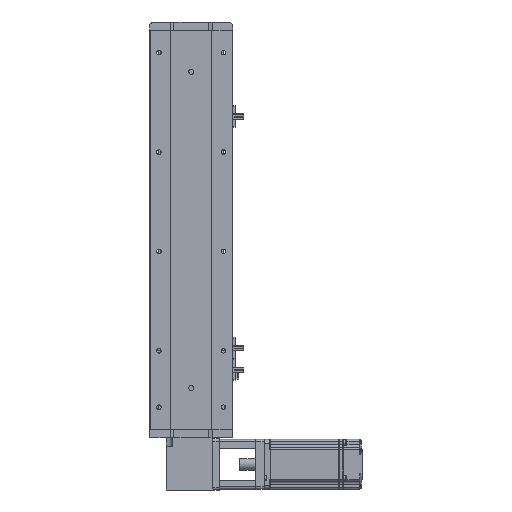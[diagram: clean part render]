
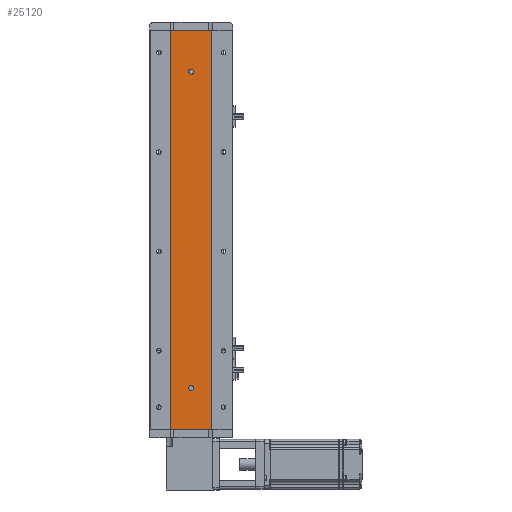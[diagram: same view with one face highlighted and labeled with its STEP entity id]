
A CAD part, left-side view. The second image highlights one B-rep face of the part: STEP entity #25120.
In plain terms, the highlighted planar face has unit normal (-1, 0, 0).
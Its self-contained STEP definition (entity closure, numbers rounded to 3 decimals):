
#1984 = ORIENTED_EDGE ( 'NONE', *, *, #18253, .F. ) ;
#3124 = VERTEX_POINT ( 'NONE', #35539 ) ;
#3237 = CARTESIAN_POINT ( 'NONE',  ( -18.926, 0., 435. ) ) ;
#3620 = EDGE_CURVE ( 'NONE', #47443, #49654, #4487, .T. ) ;
#4171 = DIRECTION ( 'NONE',  ( -1., 0., 0. ) ) ;
#4487 = CIRCLE ( 'NONE', #43708, 3. ) ;
#6660 = LINE ( 'NONE', #42491, #29786 ) ;
#6761 = LINE ( 'NONE', #23639, #31343 ) ;
#7508 = VERTEX_POINT ( 'NONE', #16027 ) ;
#7782 = DIRECTION ( 'NONE',  ( 0., -1., 0. ) ) ;
#8699 = VECTOR ( 'NONE', #7782, 1000. ) ;
#9200 = VERTEX_POINT ( 'NONE', #9737 ) ;
#9737 = CARTESIAN_POINT ( 'NONE',  ( -18.926, 0., 429. ) ) ;
#11445 = CARTESIAN_POINT ( 'NONE',  ( -18.926, -24.785, 0. ) ) ;
#11930 = EDGE_CURVE ( 'NONE', #3124, #7508, #6761, .T. ) ;
#12270 = FACE_BOUND ( 'NONE', #45527, .T. ) ;
#14691 = CARTESIAN_POINT ( 'NONE',  ( -18.926, 0., 47. ) ) ;
#14957 = ORIENTED_EDGE ( 'NONE', *, *, #3620, .F. ) ;
#16027 = CARTESIAN_POINT ( 'NONE',  ( -18.926, 24.785, 0. ) ) ;
#16106 = CARTESIAN_POINT ( 'NONE',  ( -18.926, 0., 432. ) ) ;
#18253 = EDGE_CURVE ( 'NONE', #9200, #56719, #19069, .T. ) ;
#19037 = EDGE_CURVE ( 'NONE', #24520, #56064, #6660, .T. ) ;
#19069 = CIRCLE ( 'NONE', #43409, 3. ) ;
#20307 = CARTESIAN_POINT ( 'NONE',  ( -18.926, 24.785, 482. ) ) ;
#20829 = DIRECTION ( 'NONE',  ( 0., 0., 1. ) ) ;
#21489 = AXIS2_PLACEMENT_3D ( 'NONE', #20307, #52555, #24873 ) ;
#23639 = CARTESIAN_POINT ( 'NONE',  ( -18.926, 24.785, 482. ) ) ;
#24520 = VERTEX_POINT ( 'NONE', #56483 ) ;
#24538 = FACE_OUTER_BOUND ( 'NONE', #33921, .T. ) ;
#24873 = DIRECTION ( 'NONE',  ( 0., 0., -1. ) ) ;
#25120 = ADVANCED_FACE ( 'NONE', ( #59941, #12270, #24538 ), #33827, .F. ) ;
#25391 = DIRECTION ( 'NONE',  ( -1., 0., 0. ) ) ;
#25505 = DIRECTION ( 'NONE',  ( -1., 0., 0. ) ) ;
#25967 = ORIENTED_EDGE ( 'NONE', *, *, #31943, .T. ) ;
#26625 = EDGE_CURVE ( 'NONE', #56719, #9200, #31101, .T. ) ;
#27304 = CARTESIAN_POINT ( 'NONE',  ( -18.926, 24.785, 0. ) ) ;
#28137 = AXIS2_PLACEMENT_3D ( 'NONE', #53031, #25391, #57694 ) ;
#29318 = ORIENTED_EDGE ( 'NONE', *, *, #41235, .F. ) ;
#29786 = VECTOR ( 'NONE', #33199, 1000. ) ;
#30156 = LINE ( 'NONE', #27304, #53258 ) ;
#30262 = EDGE_LOOP ( 'NONE', ( #29318, #14957 ) ) ;
#31101 = CIRCLE ( 'NONE', #35085, 3. ) ;
#31343 = VECTOR ( 'NONE', #46497, 1000. ) ;
#31858 = CARTESIAN_POINT ( 'NONE',  ( -18.926, 0., 432. ) ) ;
#31943 = EDGE_CURVE ( 'NONE', #7508, #56064, #30156, .T. ) ;
#33199 = DIRECTION ( 'NONE',  ( 0., 0., -1. ) ) ;
#33355 = ORIENTED_EDGE ( 'NONE', *, *, #26625, .F. ) ;
#33827 = PLANE ( 'NONE',  #21489 ) ;
#33921 = EDGE_LOOP ( 'NONE', ( #25967, #37181, #39758, #38058 ) ) ;
#35085 = AXIS2_PLACEMENT_3D ( 'NONE', #16106, #48438, #20829 ) ;
#35435 = CARTESIAN_POINT ( 'NONE',  ( -18.926, 24.785, 482. ) ) ;
#35539 = CARTESIAN_POINT ( 'NONE',  ( -18.926, 24.785, 482. ) ) ;
#36490 = DIRECTION ( 'NONE',  ( 0., 0., 1. ) ) ;
#37181 = ORIENTED_EDGE ( 'NONE', *, *, #19037, .F. ) ;
#38058 = ORIENTED_EDGE ( 'NONE', *, *, #11930, .T. ) ;
#39758 = ORIENTED_EDGE ( 'NONE', *, *, #58244, .F. ) ;
#41235 = EDGE_CURVE ( 'NONE', #49654, #47443, #42140, .T. ) ;
#42140 = CIRCLE ( 'NONE', #28137, 3. ) ;
#42491 = CARTESIAN_POINT ( 'NONE',  ( -18.926, -24.785, 482. ) ) ;
#43409 = AXIS2_PLACEMENT_3D ( 'NONE', #31858, #4171, #36490 ) ;
#43708 = AXIS2_PLACEMENT_3D ( 'NONE', #53160, #25505, #57820 ) ;
#45527 = EDGE_LOOP ( 'NONE', ( #33355, #1984 ) ) ;
#45586 = LINE ( 'NONE', #35435, #8699 ) ;
#45910 = DIRECTION ( 'NONE',  ( 0., -1., 0. ) ) ;
#46497 = DIRECTION ( 'NONE',  ( 0., 0., -1. ) ) ;
#47171 = CARTESIAN_POINT ( 'NONE',  ( -18.926, 0., 53. ) ) ;
#47443 = VERTEX_POINT ( 'NONE', #14691 ) ;
#48438 = DIRECTION ( 'NONE',  ( -1., 0., 0. ) ) ;
#49654 = VERTEX_POINT ( 'NONE', #47171 ) ;
#52555 = DIRECTION ( 'NONE',  ( 1., 0., 0. ) ) ;
#53031 = CARTESIAN_POINT ( 'NONE',  ( -18.926, 0., 50. ) ) ;
#53160 = CARTESIAN_POINT ( 'NONE',  ( -18.926, 0., 50. ) ) ;
#53258 = VECTOR ( 'NONE', #45910, 1000. ) ;
#56064 = VERTEX_POINT ( 'NONE', #11445 ) ;
#56483 = CARTESIAN_POINT ( 'NONE',  ( -18.926, -24.785, 482. ) ) ;
#56719 = VERTEX_POINT ( 'NONE', #3237 ) ;
#57694 = DIRECTION ( 'NONE',  ( 0., 0., 1. ) ) ;
#57820 = DIRECTION ( 'NONE',  ( 0., 0., 1. ) ) ;
#58244 = EDGE_CURVE ( 'NONE', #3124, #24520, #45586, .T. ) ;
#59941 = FACE_BOUND ( 'NONE', #30262, .T. ) ;
